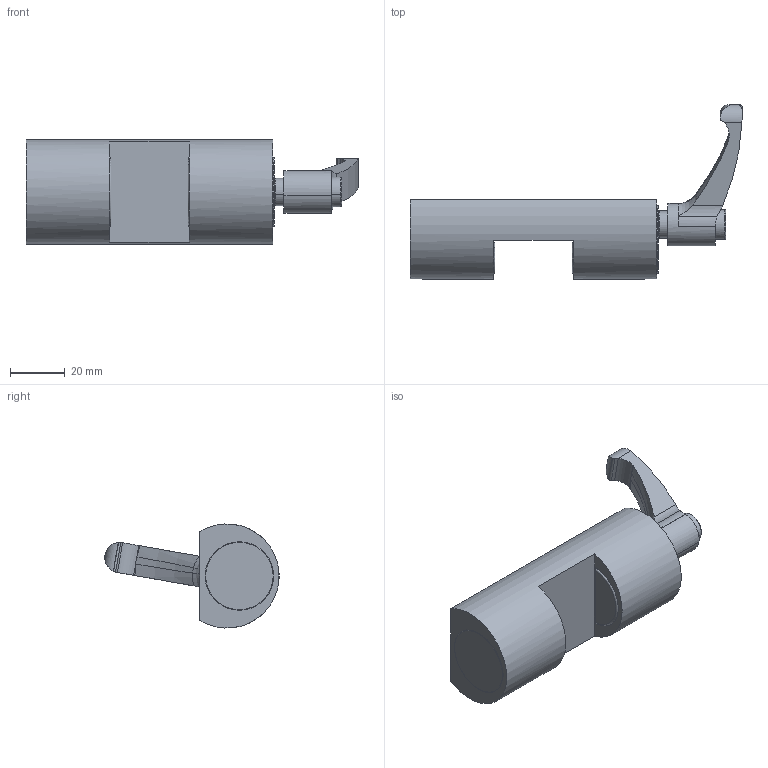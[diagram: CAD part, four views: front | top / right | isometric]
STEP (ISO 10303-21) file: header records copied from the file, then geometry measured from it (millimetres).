
FILE_DESCRIPTION((''),'2;1');
FILE_NAME('FRCMAN30T02LT_SW0002','2017-06-23T16:11:39',('pietro.a'),(''),'CREO PARAMETRIC BY PTC INC, 2016510','CREO PARAMETRIC BY PTC INC, 2016510','');
FILE_SCHEMA(('CONFIG_CONTROL_DESIGN'));
Length unit declared in the file: millimetre
Products named in the file (1): FRCMAN30T02LT_SW0002
Bounding box: 121.1 x 63.57 x 37.96 mm (x, y, z)
Volume: 76184.2 mm3; surface area: 18386.1 mm2
Topology: 1 solids, 1 shells, 133 faces, 336 edges, 204 vertices
Faces by surface type: cylinder 48, plane 41, cone 32, torus 10, bspline 2
Entity records: 4249 total; most frequent: CARTESIAN_POINT 1056, DIRECTION 683, ORIENTED_EDGE 644, EDGE_CURVE 322, AXIS2_PLACEMENT_3D 271, VERTEX_POINT 204, EDGE_LOOP 148, VECTOR 141
